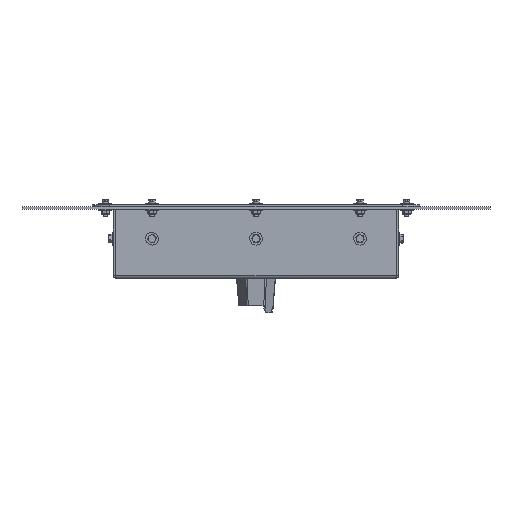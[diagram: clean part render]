
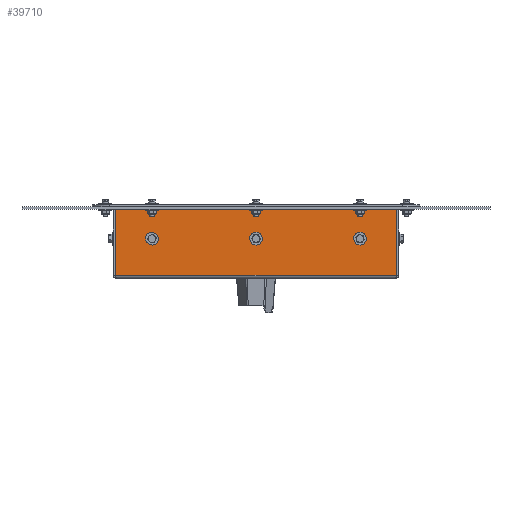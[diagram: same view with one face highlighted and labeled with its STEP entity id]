
A CAD part, front view. The second image highlights one B-rep face of the part: STEP entity #39710.
In plain terms, the highlighted planar face has unit normal (0, -1, 0).
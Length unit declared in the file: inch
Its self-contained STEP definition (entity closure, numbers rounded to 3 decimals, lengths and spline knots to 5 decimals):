
#1638 = VECTOR ( 'NONE', #27947, 39.37008 ) ;
#3528 = ORIENTED_EDGE ( 'NONE', *, *, #4712, .F. ) ;
#3643 = VERTEX_POINT ( 'NONE', #82961 ) ;
#3736 = VERTEX_POINT ( 'NONE', #49672 ) ;
#4712 = EDGE_CURVE ( 'NONE', #9721, #16010, #45514, .T. ) ;
#5624 = CARTESIAN_POINT ( 'NONE',  ( -6., -7.275, 2.165 ) ) ;
#6349 = LINE ( 'NONE', #67388, #60361 ) ;
#6932 = AXIS2_PLACEMENT_3D ( 'NONE', #21475, #70676, #28550 ) ;
#7725 = ORIENTED_EDGE ( 'NONE', *, *, #50164, .F. ) ;
#9265 = EDGE_LOOP ( 'NONE', ( #62045, #37674 ) ) ;
#9436 = VERTEX_POINT ( 'NONE', #45187 ) ;
#9721 = VERTEX_POINT ( 'NONE', #55894 ) ;
#9921 = DIRECTION ( 'NONE',  ( 0., -1., 0. ) ) ;
#11004 = CARTESIAN_POINT ( 'NONE',  ( -6., -7.275, 1.975 ) ) ;
#12769 = DIRECTION ( 'NONE',  ( 0., 0., -1. ) ) ;
#14236 = CARTESIAN_POINT ( 'NONE',  ( 8.09091, -7.275, 0.05 ) ) ;
#15644 = CARTESIAN_POINT ( 'NONE',  ( 0., -7.275, 4. ) ) ;
#16010 = VERTEX_POINT ( 'NONE', #73314 ) ;
#16469 = CIRCLE ( 'NONE', #26843, 0.19 ) ;
#16545 = FACE_BOUND ( 'NONE', #9265, .T. ) ;
#19519 = AXIS2_PLACEMENT_3D ( 'NONE', #37768, #86951, #44847 ) ;
#20896 = CARTESIAN_POINT ( 'NONE',  ( -8.09091, -7.275, 0. ) ) ;
#21475 = CARTESIAN_POINT ( 'NONE',  ( 0., -7.275, 2.165 ) ) ;
#24659 = AXIS2_PLACEMENT_3D ( 'NONE', #5624, #54906, #12769 ) ;
#25303 = EDGE_CURVE ( 'NONE', #3643, #70124, #87532, .T. ) ;
#25580 = VERTEX_POINT ( 'NONE', #14236 ) ;
#26311 = CARTESIAN_POINT ( 'NONE',  ( 0., -7.275, 0. ) ) ;
#26843 = AXIS2_PLACEMENT_3D ( 'NONE', #72287, #30164, #79320 ) ;
#26850 = VECTOR ( 'NONE', #64842, 39.37008 ) ;
#27080 = ORIENTED_EDGE ( 'NONE', *, *, #83050, .F. ) ;
#27947 = DIRECTION ( 'NONE',  ( 0., 0., 1. ) ) ;
#28550 = DIRECTION ( 'NONE',  ( 0., 0., -1. ) ) ;
#29421 = CIRCLE ( 'NONE', #19519, 0.19 ) ;
#30164 = DIRECTION ( 'NONE',  ( 0., -1., 0. ) ) ;
#30545 = EDGE_CURVE ( 'NONE', #75992, #3736, #79416, .T. ) ;
#33371 = DIRECTION ( 'NONE',  ( 0., 0., 1. ) ) ;
#35300 = FACE_BOUND ( 'NONE', #57662, .T. ) ;
#36063 = DIRECTION ( 'NONE',  ( -1., 0., 0. ) ) ;
#36539 = DIRECTION ( 'NONE',  ( 0., -1., 0. ) ) ;
#37479 = FACE_BOUND ( 'NONE', #75335, .T. ) ;
#37674 = ORIENTED_EDGE ( 'NONE', *, *, #30545, .F. ) ;
#37768 = CARTESIAN_POINT ( 'NONE',  ( 6., -7.275, 2.165 ) ) ;
#39644 = VECTOR ( 'NONE', #36063, 39.37008 ) ;
#39710 = ADVANCED_FACE ( 'NONE', ( #89167, #37479, #35300, #16545 ), #61035, .F. ) ;
#41388 = EDGE_CURVE ( 'NONE', #25580, #60447, #72674, .T. ) ;
#43627 = CARTESIAN_POINT ( 'NONE',  ( 0., -7.275, 1.975 ) ) ;
#43721 = EDGE_CURVE ( 'NONE', #3736, #75992, #29421, .T. ) ;
#44507 = AXIS2_PLACEMENT_3D ( 'NONE', #26311, #75489, #33371 ) ;
#44847 = DIRECTION ( 'NONE',  ( 0., 0., -1. ) ) ;
#45016 = CIRCLE ( 'NONE', #24659, 0.19 ) ;
#45187 = CARTESIAN_POINT ( 'NONE',  ( 0., -7.275, 2.355 ) ) ;
#45514 = LINE ( 'NONE', #15644, #26850 ) ;
#49672 = CARTESIAN_POINT ( 'NONE',  ( 6., -7.275, 1.975 ) ) ;
#49897 = EDGE_LOOP ( 'NONE', ( #27080, #3528, #71278, #80980 ) ) ;
#50164 = EDGE_CURVE ( 'NONE', #70124, #3643, #45016, .T. ) ;
#52082 = CARTESIAN_POINT ( 'NONE',  ( -6., -7.275, 2.165 ) ) ;
#52379 = CARTESIAN_POINT ( 'NONE',  ( 6., -7.275, 2.165 ) ) ;
#54201 = ORIENTED_EDGE ( 'NONE', *, *, #54907, .F. ) ;
#54906 = DIRECTION ( 'NONE',  ( 0., -1., 0. ) ) ;
#54907 = EDGE_CURVE ( 'NONE', #79571, #9436, #16469, .T. ) ;
#55894 = CARTESIAN_POINT ( 'NONE',  ( -8.09091, -7.275, 4. ) ) ;
#56266 = AXIS2_PLACEMENT_3D ( 'NONE', #52379, #36539, #57657 ) ;
#57657 = DIRECTION ( 'NONE',  ( 0., 0., -1. ) ) ;
#57662 = EDGE_LOOP ( 'NONE', ( #54201, #90824 ) ) ;
#57869 = LINE ( 'NONE', #20896, #1638 ) ;
#58251 = EDGE_CURVE ( 'NONE', #60447, #9721, #57869, .T. ) ;
#59160 = DIRECTION ( 'NONE',  ( 0., 0., -1. ) ) ;
#60361 = VECTOR ( 'NONE', #74496, 39.37008 ) ;
#60447 = VERTEX_POINT ( 'NONE', #83017 ) ;
#60572 = AXIS2_PLACEMENT_3D ( 'NONE', #52082, #9921, #59160 ) ;
#61035 = PLANE ( 'NONE',  #44507 ) ;
#62045 = ORIENTED_EDGE ( 'NONE', *, *, #43721, .F. ) ;
#62698 = CIRCLE ( 'NONE', #6932, 0.19 ) ;
#64842 = DIRECTION ( 'NONE',  ( 1., 0., 0. ) ) ;
#66452 = EDGE_CURVE ( 'NONE', #9436, #79571, #62698, .T. ) ;
#67388 = CARTESIAN_POINT ( 'NONE',  ( 8.09091, -7.275, 0. ) ) ;
#70124 = VERTEX_POINT ( 'NONE', #11004 ) ;
#70676 = DIRECTION ( 'NONE',  ( 0., -1., 0. ) ) ;
#71278 = ORIENTED_EDGE ( 'NONE', *, *, #58251, .F. ) ;
#72287 = CARTESIAN_POINT ( 'NONE',  ( 0., -7.275, 2.165 ) ) ;
#72674 = LINE ( 'NONE', #78176, #39644 ) ;
#73314 = CARTESIAN_POINT ( 'NONE',  ( 8.09091, -7.275, 4. ) ) ;
#73840 = ORIENTED_EDGE ( 'NONE', *, *, #25303, .F. ) ;
#74496 = DIRECTION ( 'NONE',  ( 0., 0., -1. ) ) ;
#75335 = EDGE_LOOP ( 'NONE', ( #7725, #73840 ) ) ;
#75489 = DIRECTION ( 'NONE',  ( 0., 1., 0. ) ) ;
#75992 = VERTEX_POINT ( 'NONE', #77412 ) ;
#77412 = CARTESIAN_POINT ( 'NONE',  ( 6., -7.275, 2.355 ) ) ;
#78176 = CARTESIAN_POINT ( 'NONE',  ( 8.09091, -7.275, 0.05 ) ) ;
#79320 = DIRECTION ( 'NONE',  ( 0., 0., -1. ) ) ;
#79416 = CIRCLE ( 'NONE', #56266, 0.19 ) ;
#79571 = VERTEX_POINT ( 'NONE', #43627 ) ;
#80980 = ORIENTED_EDGE ( 'NONE', *, *, #41388, .F. ) ;
#82961 = CARTESIAN_POINT ( 'NONE',  ( -6., -7.275, 2.355 ) ) ;
#83017 = CARTESIAN_POINT ( 'NONE',  ( -8.09091, -7.275, 0.05 ) ) ;
#83050 = EDGE_CURVE ( 'NONE', #16010, #25580, #6349, .T. ) ;
#86951 = DIRECTION ( 'NONE',  ( 0., -1., 0. ) ) ;
#87532 = CIRCLE ( 'NONE', #60572, 0.19 ) ;
#89167 = FACE_OUTER_BOUND ( 'NONE', #49897, .T. ) ;
#90824 = ORIENTED_EDGE ( 'NONE', *, *, #66452, .F. ) ;
